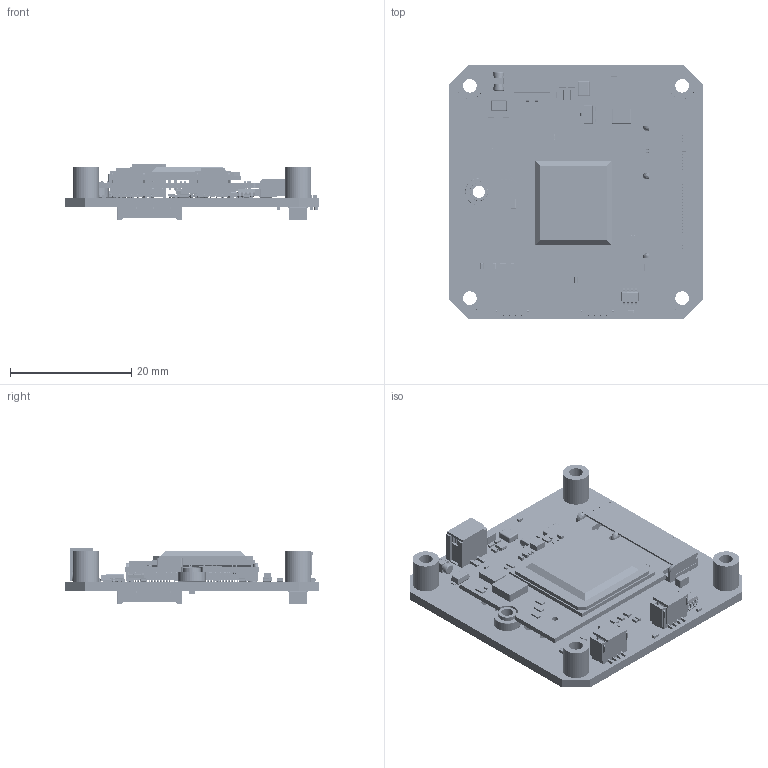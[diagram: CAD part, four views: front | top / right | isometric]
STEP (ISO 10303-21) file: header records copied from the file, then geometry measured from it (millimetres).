
FILE_DESCRIPTION(('FreeCAD Model'),'2;1');
FILE_NAME('Open CASCADE Shape Model','2025-04-24T07:40:48',(''),(''), 'Open CASCADE STEP processor 7.6','FreeCAD','Unknown');
FILE_SCHEMA(('AUTOMOTIVE_DESIGN { 1 0 10303 214 1 1 1 1 }'));
Length unit declared in the file: millimetre
Products named in the file (666): PCIe-Adapter_hailo_revA; Board; Open CASCADE STEP translator 7.5 419.1.1; Designator75; H8B-M2AE_STP_2R0 v3; H8B-M2AE_STP_2R0; PCB00133_2R0_09; BOARD_OUTLINE; COMPONENTS; VQFN050P355X255X103-16TP; L0806X04; ASSEMBLY; term1; term2; body; INDM040X040X150; Coilcraft-XGL4015; DSBGA050P014X010X068-5; User Library-WLCSP5; WLCSP5_Body___ _________; WLCSP5_Lead___ _________; X2DFN35P100X100X040-6; DFN1010H4-6; Compound; LDF006; LDF; LDF001; LDF002; LDF003; LDF004; LDF005; OSCSC120P200X160X80-4; WLCSP040P076X076X035-4; User Library-WLCSP010; User Library-WLCSP4; User Library-WLCSP006; User Library-WLCSP007; User Library-WLCSP008; User Library-WLCSP009; R0402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
Assembly tree (1042 placements, depth 10):
  PCIe-Adapter_hailo_revA
    Board
      Open CASCADE STEP translator 7.5 419.1.1
    Designator75
      H8B-M2AE_STP_2R0 v3
        H8B-M2AE_STP_2R0
          PCB00133_2R0_09
            BOARD_OUTLINE
            COMPONENTS
              VQFN050P355X255X103-16TP
              L0806X04
                ASSEMBLY
                  term1
                  term2
                  body
              INDM040X040X150
                Coilcraft-XGL4015
              DSBGA050P014X010X068-5
                User Library-WLCSP5
                  WLCSP5_Body___ _________
                  WLCSP5_Lead___ _________  x5
              X2DFN35P100X100X040-6
                DFN1010H4-6
                  Compound
                  LDF006
              OSCSC120P200X160X80-4
              WLCSP040P076X076X035-4
                User Library-WLCSP010
                  User Library-WLCSP4
                  User Library-WLCSP006
                  User Library-WLCSP007
                  User Library-WLCSP008
                  User Library-WLCSP009
              R0402
                User Library-RESC1005X04N
              R0403
                User Library-RESC1005X04N
              R0404
                User Library-RESC1005X04N
              R0405
                User Library-RESC1005X04N
              R0201
                User Library-res0201-1
              R0406
                User Library-res0201-1
              R0407
                User Library-res0201-1
              R0408
                User Library-res0201-1
              R0409
                User Library-res0201-1
              R0410
                User Library-res0201-1
              R0411
                User Library-res0201-1
              R0412
                User Library-res0201-1
              R0413
                User Library-res0201-1
              R0414
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Bounding box: 42 x 42 x 9.16 mm (x, y, z)
Volume: 4685.2 mm3; surface area: 10105.9 mm2
Topology: 648 solids, 648 shells, 18611 faces, 45902 edges, 27686 vertices
Faces by surface type: plane 9565, cylinder 5745, sphere 1499, bspline 984, torus 811, cone 5, revolution 2
Full cylindrical faces by diameter (mm): 0.05 x1, 0.06 x1, 0.082 x1, 0.1 x3, 0.15 x1, 0.173 x1, 0.271 x1, 0.4 x1, 0.5 x4, 1 x1, 1.1 x1, 1.492 x1, 1.6 x1, 1.75 x2, 2 x3, 2.25 x4, 2.5 x1, 2.65 x1, 2.8 x4, 3 x5, 4.35 x4, 4.5 x1
Entity records: 246038 total; most frequent: CARTESIAN_POINT 50617, ORIENTED_EDGE 35184, DIRECTION 35022, EDGE_CURVE 17592, LINE 11833, VECTOR 11833, AXIS2_PLACEMENT_3D 11594, VERTEX_POINT 11269
